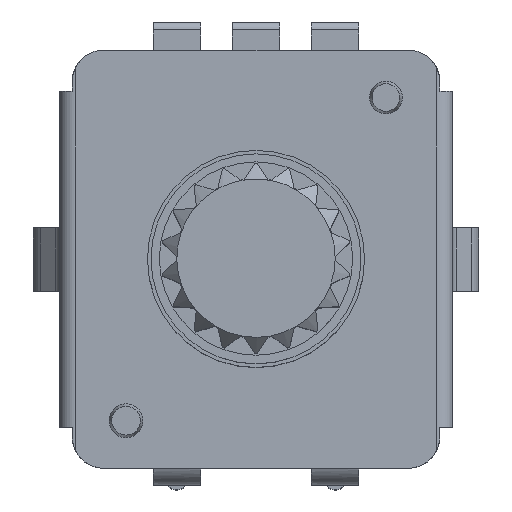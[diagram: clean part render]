
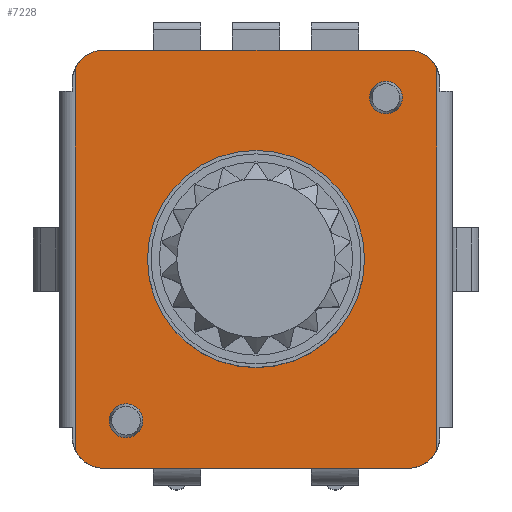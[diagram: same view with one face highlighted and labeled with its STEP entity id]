
A CAD part, top view. The second image highlights one B-rep face of the part: STEP entity #7228.
In plain terms, the highlighted planar face has unit normal (0, 0, 1).
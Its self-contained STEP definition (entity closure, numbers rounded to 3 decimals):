
#562=LINE($,#11275,#1390);
#580=LINE($,#11336,#1408);
#589=LINE($,#11370,#1417);
#590=LINE($,#11371,#1418);
#1390=VECTOR($,#9134,9.6);
#1408=VECTOR($,#9180,9.6);
#1417=VECTOR($,#9209,12.072);
#1418=VECTOR($,#9210,12.072);
#1890=PLANE($,#7761);
#2219=FACE_OUTER_BOUND($,#2588,.T.);
#2588=EDGE_LOOP($,(#5873,#5874,#5875,#5876,#5877,#5878,#5879,#5880));
#2857=CIRCLE($,#7736,1.);
#2858=CIRCLE($,#7740,1.);
#2863=CIRCLE($,#7750,1.);
#2864=CIRCLE($,#7753,1.);
#3404=VERTEX_POINT($,#11261);
#3406=VERTEX_POINT($,#11269);
#3407=VERTEX_POINT($,#11274);
#3410=VERTEX_POINT($,#11283);
#3422=VERTEX_POINT($,#11323);
#3423=VERTEX_POINT($,#11330);
#3424=VERTEX_POINT($,#11334);
#3426=VERTEX_POINT($,#11339);
#4335=EDGE_CURVE($,#3404,#3406,#2857,.T.);
#4338=EDGE_CURVE($,#3406,#3407,#562,.T.);
#4344=EDGE_CURVE($,#3407,#3410,#2858,.T.);
#4361=EDGE_CURVE($,#3422,#3423,#2863,.T.);
#4364=EDGE_CURVE($,#3423,#3424,#580,.T.);
#4367=EDGE_CURVE($,#3424,#3426,#2864,.T.);
#4379=EDGE_CURVE($,#3410,#3422,#589,.T.);
#4380=EDGE_CURVE($,#3426,#3404,#590,.T.);
#5873=ORIENTED_EDGE($,*,*,#4379,.F.);
#5874=ORIENTED_EDGE($,*,*,#4344,.F.);
#5875=ORIENTED_EDGE($,*,*,#4338,.F.);
#5876=ORIENTED_EDGE($,*,*,#4335,.F.);
#5877=ORIENTED_EDGE($,*,*,#4380,.F.);
#5878=ORIENTED_EDGE($,*,*,#4367,.F.);
#5879=ORIENTED_EDGE($,*,*,#4364,.F.);
#5880=ORIENTED_EDGE($,*,*,#4361,.F.);
#7228=ADVANCED_FACE($,(#2219),#1890,.T.);
#7736=AXIS2_PLACEMENT_3D($,#11270,#9128,#9129);
#7740=AXIS2_PLACEMENT_3D($,#11291,#9143,#9144);
#7750=AXIS2_PLACEMENT_3D($,#11331,#9174,#9175);
#7753=AXIS2_PLACEMENT_3D($,#11347,#9184,#9185);
#7761=AXIS2_PLACEMENT_3D($,#11369,#9207,#9208);
#9128=DIRECTION('center_axis',(0.,0.,
-1.));
#9129=DIRECTION('ref_axis',(0.707,-0.707,0.));
#9134=DIRECTION($,(-1.,0.,0.));
#9143=DIRECTION('center_axis',(0.,0.,
-1.));
#9144=DIRECTION('ref_axis',(-0.707,-0.707,0.));
#9174=DIRECTION('center_axis',(0.,0.,
-1.));
#9175=DIRECTION('ref_axis',(-0.707,0.707,0.));
#9180=DIRECTION($,(1.,0.,0.));
#9184=DIRECTION('center_axis',(0.,0.,
-1.));
#9185=DIRECTION('ref_axis',(0.707,0.707,0.));
#9207=DIRECTION('center_axis',(0.,0.,
1.));
#9208=DIRECTION('ref_axis',(1.,0.,0.));
#9209=DIRECTION($,(0.,1.,0.));
#9210=DIRECTION($,(0.,-1.,0.));
#11261=CARTESIAN_POINT('',(5.7,-6.036,6.1));
#11269=CARTESIAN_POINT('',(4.8,-6.6,6.1));
#11270=CARTESIAN_POINT('Origin',(4.8,-5.6,6.1));
#11274=CARTESIAN_POINT('',(-4.8,-6.6,6.1));
#11275=CARTESIAN_POINT($,(5.8,-6.6,6.1));
#11283=CARTESIAN_POINT('',(-5.7,-6.036,6.1));
#11291=CARTESIAN_POINT('Origin',(-4.8,-5.6,6.1));
#11323=CARTESIAN_POINT('',(-5.7,6.036,6.1));
#11330=CARTESIAN_POINT('',(-4.8,6.6,6.1));
#11331=CARTESIAN_POINT('Origin',(-4.8,5.6,6.1));
#11334=CARTESIAN_POINT('',(4.8,6.6,6.1));
#11336=CARTESIAN_POINT($,(-5.8,6.6,6.1));
#11339=CARTESIAN_POINT('',(5.7,6.036,6.1));
#11347=CARTESIAN_POINT('Origin',(4.8,5.6,6.1));
#11369=CARTESIAN_POINT('Origin',(0.,0.,
6.1));
#11370=CARTESIAN_POINT($,(-5.7,0.,6.1));
#11371=CARTESIAN_POINT($,(5.7,0.,6.1));
